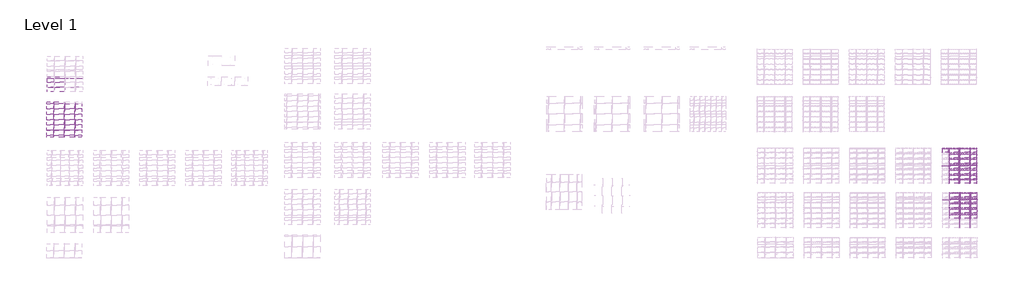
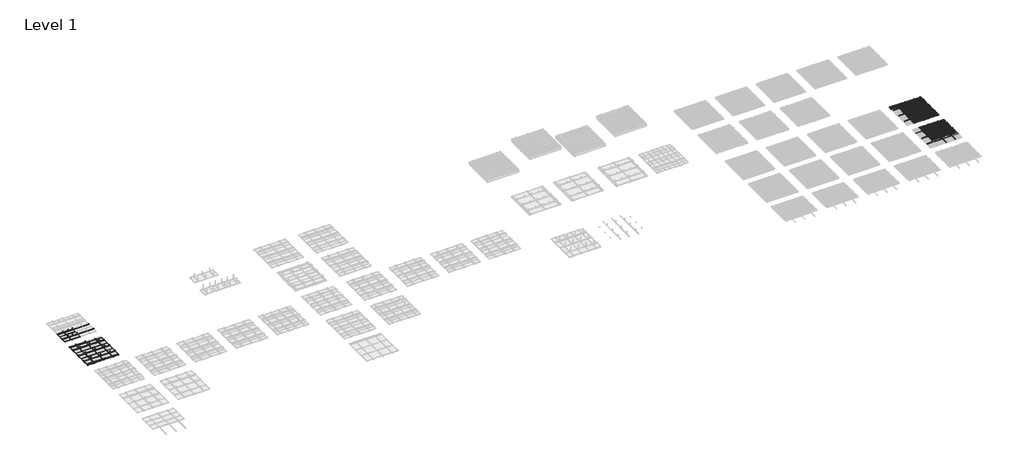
# One storey, part 15 of 32: 136 proxies.
"""IFC4 building model written with IfcOpenShell, lengths in millimetres."""

from ifc_helpers import new_model, si_unit, origin, place, context, project, spatial, transform, mapped, element, save
from components import generic_models_7976c679, generic_models_257fdc35, generic_models_9e23e978, generic_models_f96a42b3, generic_models_b01e0852, generic_models_931bb0da, generic_models_4f62446b, generic_models_777941b1, generic_models_a2e92584, generic_models_f4ce44e0, generic_models_7d2a2b44, generic_models_e4501f19, generic_models_6ed68c57, generic_models_748fdbd1, generic_models_ed86a27e, generic_models_493e9e8c, generic_models_892cdaf6, generic_models_22f2553a, generic_models_c5b66b1f, generic_models_3ca765b0, generic_models_f1efeb4e, generic_models_b4a88b9d, generic_models_f6474ad0, generic_models_9e18e937, generic_models_28f6a95c, generic_models_9ccf16c1, generic_models_38625c8c, generic_models_8a6f20a3

model = new_model("IFC4")

# Units and contexts
model_context = context("Model", 3, world=origin())
ifc_project = project(units=[si_unit("LENGTHUNIT", "METRE", prefix="MILLI")], contexts=[model_context])

# Site, building, storey
site = spatial("IfcSite", under=ifc_project)
building = spatial("IfcBuilding", under=site)
storey = spatial("IfcBuildingStorey", under=building, Name="Level 1", Elevation=0.0)

# Proxies
placement = place(None, origin())
generic_models_shape = generic_models_7976c679(model_context)
element("IfcBuildingElementProxy", 1, Name="durlum_S4_RHOMBOS : durlum_S4_RHOMBOS", ObjectType="durlum_S4_RHOMBOS : durlum_S4_RHOMBOS", at=placement, inside=storey, context=model_context, shape_type="MappedRepresentation", body=[
    mapped(generic_models_shape, transform((-44297.4152168, 3118.9203868, 0.0), x_axis=(1.0, 0.0, 0.0), y_axis=(0.0, 1.0, 0.0), z_axis=(0.0, 0.0, 1.0))),
])
generic_models_2_shape = generic_models_257fdc35(model_context)
element("IfcBuildingElementProxy", 2, Name="durlum_S4_panel : durlum_S4_panel", ObjectType="durlum_S4_panel : durlum_S4_panel", at=placement, inside=storey, context=model_context, shape_type="MappedRepresentation", body=[
    mapped(generic_models_2_shape, transform((-44897.4152168, 2218.9203868, 3700.0), x_axis=(1.0, 0.0, 0.0), y_axis=(0.0, 1.0, 0.0), z_axis=(0.0, 0.0, 1.0))),
])
element("IfcBuildingElementProxy", 3, Name="durlum_S4_panel : durlum_S4_panel", ObjectType="durlum_S4_panel : durlum_S4_panel", at=placement, inside=storey, context=model_context, shape_type="MappedRepresentation", body=[
    mapped(generic_models_2_shape, transform((-43697.4152168, 2218.9203868, 3700.0), x_axis=(1.0, 0.0, 0.0), y_axis=(0.0, 1.0, 0.0), z_axis=(0.0, 0.0, 1.0))),
])
element("IfcBuildingElementProxy", 4, Name="durlum_S4_panel : durlum_S4_panel", ObjectType="durlum_S4_panel : durlum_S4_panel", at=placement, inside=storey, context=model_context, shape_type="MappedRepresentation", body=[
    mapped(generic_models_2_shape, transform((-44897.4152168, 2818.9203868, 3700.0), x_axis=(1.0, 0.0, 0.0), y_axis=(0.0, 1.0, 0.0), z_axis=(0.0, 0.0, 1.0))),
])
element("IfcBuildingElementProxy", 5, Name="durlum_S4_panel : durlum_S4_panel", ObjectType="durlum_S4_panel : durlum_S4_panel", at=placement, inside=storey, context=model_context, shape_type="MappedRepresentation", body=[
    mapped(generic_models_2_shape, transform((-43697.4152168, 2818.9203868, 3700.0), x_axis=(1.0, 0.0, 0.0), y_axis=(0.0, 1.0, 0.0), z_axis=(0.0, 0.0, 1.0))),
])
element("IfcBuildingElementProxy", 6, Name="durlum_S4_panel : durlum_S4_panel", ObjectType="durlum_S4_panel : durlum_S4_panel", at=placement, inside=storey, context=model_context, shape_type="MappedRepresentation", body=[
    mapped(generic_models_2_shape, transform((-44897.4152168, 3418.9203868, 3700.0), x_axis=(1.0, 0.0, 0.0), y_axis=(0.0, 1.0, 0.0), z_axis=(0.0, 0.0, 1.0))),
])
element("IfcBuildingElementProxy", 7, Name="durlum_S4_panel : durlum_S4_panel", ObjectType="durlum_S4_panel : durlum_S4_panel", at=placement, inside=storey, context=model_context, shape_type="MappedRepresentation", body=[
    mapped(generic_models_2_shape, transform((-43697.4152168, 3418.9203868, 3700.0), x_axis=(1.0, 0.0, 0.0), y_axis=(0.0, 1.0, 0.0), z_axis=(0.0, 0.0, 1.0))),
])
element("IfcBuildingElementProxy", 8, Name="durlum_S4_panel : durlum_S4_panel", ObjectType="durlum_S4_panel : durlum_S4_panel", at=placement, inside=storey, context=model_context, shape_type="MappedRepresentation", body=[
    mapped(generic_models_2_shape, transform((-44897.4152168, 4018.9203868, 3700.0), x_axis=(1.0, 0.0, 0.0), y_axis=(0.0, 1.0, 0.0), z_axis=(0.0, 0.0, 1.0))),
])
element("IfcBuildingElementProxy", 9, Name="durlum_S4_panel : durlum_S4_panel", ObjectType="durlum_S4_panel : durlum_S4_panel", at=placement, inside=storey, context=model_context, shape_type="MappedRepresentation", body=[
    mapped(generic_models_2_shape, transform((-43697.4152168, 4018.9203868, 3700.0), x_axis=(1.0, 0.0, 0.0), y_axis=(0.0, 1.0, 0.0), z_axis=(0.0, 0.0, 1.0))),
])
element("IfcBuildingElementProxy", 10, Name="durlum_S4_panel : durlum_S4_panel", ObjectType="durlum_S4_panel : durlum_S4_panel", at=placement, inside=storey, context=model_context, shape_type="MappedRepresentation", body=[
    mapped(generic_models_2_shape, transform((-44897.4152168, 1618.9203868, 3700.0), x_axis=(1.0, 0.0, 0.0), y_axis=(0.0, 1.0, 0.0), z_axis=(0.0, 0.0, 1.0))),
])
element("IfcBuildingElementProxy", 11, Name="durlum_S4_panel : durlum_S4_panel", ObjectType="durlum_S4_panel : durlum_S4_panel", at=placement, inside=storey, context=model_context, shape_type="MappedRepresentation", body=[
    mapped(generic_models_2_shape, transform((-43697.4152168, 1618.9203868, 3700.0), x_axis=(1.0, 0.0, 0.0), y_axis=(0.0, 1.0, 0.0), z_axis=(0.0, 0.0, 1.0))),
])
element("IfcBuildingElementProxy", 12, Name="durlum_S4_panel : durlum_S4_panel", ObjectType="durlum_S4_panel : durlum_S4_panel", at=placement, inside=storey, context=model_context, shape_type="MappedRepresentation", body=[
    mapped(generic_models_2_shape, transform((-44897.4152168, 4618.9203868, 3700.0), x_axis=(1.0, 0.0, 0.0), y_axis=(0.0, 1.0, 0.0), z_axis=(0.0, 0.0, 1.0))),
])
element("IfcBuildingElementProxy", 13, Name="durlum_S4_panel : durlum_S4_panel", ObjectType="durlum_S4_panel : durlum_S4_panel", at=placement, inside=storey, context=model_context, shape_type="MappedRepresentation", body=[
    mapped(generic_models_2_shape, transform((-43697.4152168, 4618.9203868, 3700.0), x_axis=(1.0, 0.0, 0.0), y_axis=(0.0, 1.0, 0.0), z_axis=(0.0, 0.0, 1.0))),
])
generic_models_3_shape = generic_models_9e23e978(model_context)
element("IfcBuildingElementProxy", 14, Name="durlum_S4_panel : durlum_S4_panel_wall_length_cut", ObjectType="durlum_S4_panel : durlum_S4_panel_wall_length_cut", at=placement, inside=storey, context=model_context, shape_type="MappedRepresentation", body=[
    mapped(generic_models_3_shape, transform((-45897.4152168, 2218.9203868, 3700.0), x_axis=(1.0, 0.0, 0.0), y_axis=(0.0, 1.0, 0.0), z_axis=(0.0, 0.0, 1.0))),
])
element("IfcBuildingElementProxy", 15, Name="durlum_S4_panel : durlum_S4_panel_wall_length_cut", ObjectType="durlum_S4_panel : durlum_S4_panel_wall_length_cut", at=placement, inside=storey, context=model_context, shape_type="MappedRepresentation", body=[
    mapped(generic_models_3_shape, transform((-42697.4152168, 2218.9203868, 3700.0), x_axis=(1.0, 0.0, 0.0), y_axis=(0.0, 1.0, 0.0), z_axis=(0.0, 0.0, 1.0))),
])
element("IfcBuildingElementProxy", 16, Name="durlum_S4_panel : durlum_S4_panel_wall_length_cut", ObjectType="durlum_S4_panel : durlum_S4_panel_wall_length_cut", at=placement, inside=storey, context=model_context, shape_type="MappedRepresentation", body=[
    mapped(generic_models_3_shape, transform((-45897.4152168, 2818.9203868, 3700.0), x_axis=(1.0, 0.0, 0.0), y_axis=(0.0, 1.0, 0.0), z_axis=(0.0, 0.0, 1.0))),
])
element("IfcBuildingElementProxy", 17, Name="durlum_S4_panel : durlum_S4_panel_wall_length_cut", ObjectType="durlum_S4_panel : durlum_S4_panel_wall_length_cut", at=placement, inside=storey, context=model_context, shape_type="MappedRepresentation", body=[
    mapped(generic_models_3_shape, transform((-42697.4152168, 2818.9203868, 3700.0), x_axis=(1.0, 0.0, 0.0), y_axis=(0.0, 1.0, 0.0), z_axis=(0.0, 0.0, 1.0))),
])
element("IfcBuildingElementProxy", 18, Name="durlum_S4_panel : durlum_S4_panel_wall_length_cut", ObjectType="durlum_S4_panel : durlum_S4_panel_wall_length_cut", at=placement, inside=storey, context=model_context, shape_type="MappedRepresentation", body=[
    mapped(generic_models_3_shape, transform((-45897.4152168, 3418.9203868, 3700.0), x_axis=(1.0, 0.0, 0.0), y_axis=(0.0, 1.0, 0.0), z_axis=(0.0, 0.0, 1.0))),
])
element("IfcBuildingElementProxy", 19, Name="durlum_S4_panel : durlum_S4_panel_wall_length_cut", ObjectType="durlum_S4_panel : durlum_S4_panel_wall_length_cut", at=placement, inside=storey, context=model_context, shape_type="MappedRepresentation", body=[
    mapped(generic_models_3_shape, transform((-42697.4152168, 3418.9203868, 3700.0), x_axis=(1.0, 0.0, 0.0), y_axis=(0.0, 1.0, 0.0), z_axis=(0.0, 0.0, 1.0))),
])
element("IfcBuildingElementProxy", 20, Name="durlum_S4_panel : durlum_S4_panel_wall_length_cut", ObjectType="durlum_S4_panel : durlum_S4_panel_wall_length_cut", at=placement, inside=storey, context=model_context, shape_type="MappedRepresentation", body=[
    mapped(generic_models_3_shape, transform((-45897.4152168, 4018.9203868, 3700.0), x_axis=(1.0, 0.0, 0.0), y_axis=(0.0, 1.0, 0.0), z_axis=(0.0, 0.0, 1.0))),
])
element("IfcBuildingElementProxy", 21, Name="durlum_S4_panel : durlum_S4_panel_wall_length_cut", ObjectType="durlum_S4_panel : durlum_S4_panel_wall_length_cut", at=placement, inside=storey, context=model_context, shape_type="MappedRepresentation", body=[
    mapped(generic_models_3_shape, transform((-42697.4152168, 4018.9203868, 3700.0), x_axis=(1.0, 0.0, 0.0), y_axis=(0.0, 1.0, 0.0), z_axis=(0.0, 0.0, 1.0))),
])
element("IfcBuildingElementProxy", 22, Name="durlum_S4_panel : durlum_S4_panel_wall_length_cut", ObjectType="durlum_S4_panel : durlum_S4_panel_wall_length_cut", at=placement, inside=storey, context=model_context, shape_type="MappedRepresentation", body=[
    mapped(generic_models_3_shape, transform((-45897.4152168, 1618.9203868, 3700.0), x_axis=(1.0, 0.0, 0.0), y_axis=(0.0, 1.0, 0.0), z_axis=(0.0, 0.0, 1.0))),
])
element("IfcBuildingElementProxy", 23, Name="durlum_S4_panel : durlum_S4_panel_wall_length_cut", ObjectType="durlum_S4_panel : durlum_S4_panel_wall_length_cut", at=placement, inside=storey, context=model_context, shape_type="MappedRepresentation", body=[
    mapped(generic_models_3_shape, transform((-42697.4152168, 1618.9203868, 3700.0), x_axis=(1.0, 0.0, 0.0), y_axis=(0.0, 1.0, 0.0), z_axis=(0.0, 0.0, 1.0))),
])
element("IfcBuildingElementProxy", 24, Name="durlum_S4_panel : durlum_S4_panel_wall_length_cut", ObjectType="durlum_S4_panel : durlum_S4_panel_wall_length_cut", at=placement, inside=storey, context=model_context, shape_type="MappedRepresentation", body=[
    mapped(generic_models_3_shape, transform((-42697.4152168, 4618.9203868, 3700.0), x_axis=(1.0, 0.0, 0.0), y_axis=(0.0, 1.0, 0.0), z_axis=(0.0, 0.0, 1.0))),
])
element("IfcBuildingElementProxy", 25, Name="durlum_S4_panel : durlum_S4_panel_wall_length_cut", ObjectType="durlum_S4_panel : durlum_S4_panel_wall_length_cut", at=placement, inside=storey, context=model_context, shape_type="MappedRepresentation", body=[
    mapped(generic_models_3_shape, transform((-45897.4152168, 4618.9203868, 3700.0), x_axis=(1.0, 0.0, 0.0), y_axis=(0.0, 1.0, 0.0), z_axis=(0.0, 0.0, 1.0))),
])
generic_models_4_shape = generic_models_f96a42b3(model_context)
element("IfcBuildingElementProxy", 26, Name="durlum_S4_panel : durlum_S4_panel_wall_width_cut", ObjectType="durlum_S4_panel : durlum_S4_panel_wall_width_cut", at=placement, inside=storey, context=model_context, shape_type="MappedRepresentation", body=[
    mapped(generic_models_4_shape, transform((-43697.4152168, 1218.9203868, 3700.0), x_axis=(1.0, 0.0, 0.0), y_axis=(0.0, 1.0, 0.0), z_axis=(0.0, 0.0, 1.0))),
])
element("IfcBuildingElementProxy", 27, Name="durlum_S4_panel : durlum_S4_panel_wall_width_cut", ObjectType="durlum_S4_panel : durlum_S4_panel_wall_width_cut", at=placement, inside=storey, context=model_context, shape_type="MappedRepresentation", body=[
    mapped(generic_models_4_shape, transform((-44897.4152168, 1218.9203868, 3700.0), x_axis=(1.0, 0.0, 0.0), y_axis=(0.0, 1.0, 0.0), z_axis=(0.0, 0.0, 1.0))),
])
element("IfcBuildingElementProxy", 28, Name="durlum_S4_panel : durlum_S4_panel_wall_width_cut", ObjectType="durlum_S4_panel : durlum_S4_panel_wall_width_cut", at=placement, inside=storey, context=model_context, shape_type="MappedRepresentation", body=[
    mapped(generic_models_4_shape, transform((-44897.4152168, 5018.9203868, 3700.0), x_axis=(1.0, 0.0, 0.0), y_axis=(0.0, 1.0, 0.0), z_axis=(0.0, 0.0, 1.0))),
])
generic_models_5_shape = generic_models_b01e0852(model_context)
element("IfcBuildingElementProxy", 29, Name="durlum_S4_panel : durlum_S4_panel_wall_corner", ObjectType="durlum_S4_panel : durlum_S4_panel_wall_corner", at=placement, inside=storey, context=model_context, shape_type="MappedRepresentation", body=[
    mapped(generic_models_5_shape, transform((-45897.4152168, 1218.9203868, 3700.0), x_axis=(1.0, 0.0, 0.0), y_axis=(0.0, 1.0, 0.0), z_axis=(0.0, 0.0, 1.0))),
])
element("IfcBuildingElementProxy", 30, Name="durlum_S4_panel : durlum_S4_panel_wall_corner", ObjectType="durlum_S4_panel : durlum_S4_panel_wall_corner", at=placement, inside=storey, context=model_context, shape_type="MappedRepresentation", body=[
    mapped(generic_models_5_shape, transform((-42697.4152168, 1218.9203868, 3700.0), x_axis=(1.0, 0.0, 0.0), y_axis=(0.0, 1.0, 0.0), z_axis=(0.0, 0.0, 1.0))),
])
element("IfcBuildingElementProxy", 31, Name="durlum_S4_panel : durlum_S4_panel_wall_corner", ObjectType="durlum_S4_panel : durlum_S4_panel_wall_corner", at=placement, inside=storey, context=model_context, shape_type="MappedRepresentation", body=[
    mapped(generic_models_5_shape, transform((-45897.4152168, 5018.9203868, 3700.0), x_axis=(1.0, 0.0, 0.0), y_axis=(0.0, 1.0, 0.0), z_axis=(0.0, 0.0, 1.0))),
])
generic_models_6_shape = generic_models_931bb0da(model_context)
element("IfcBuildingElementProxy", 32, Name="durlum_S1_RHOMBOS_panel : durlum_S1_RHOMBOS_panel", ObjectType="durlum_S1_RHOMBOS_panel : durlum_S1_RHOMBOS_panel", at=placement, inside=storey, context=model_context, shape_type="MappedRepresentation", body=[
    mapped(generic_models_6_shape, transform((-44821.0989201, 7649.4221747, 3700.0), x_axis=(1.0, 0.0, 0.0), y_axis=(0.0, 1.0, 0.0), z_axis=(0.0, 0.0, 1.0))),
])
element("IfcBuildingElementProxy", 33, Name="durlum_S1_RHOMBOS_panel : durlum_S1_RHOMBOS_panel", ObjectType="durlum_S1_RHOMBOS_panel : durlum_S1_RHOMBOS_panel", at=placement, inside=storey, context=model_context, shape_type="MappedRepresentation", body=[
    mapped(generic_models_6_shape, transform((-44821.0989201, 7049.4221747, 3700.0), x_axis=(1.0, 0.0, 0.0), y_axis=(0.0, 1.0, 0.0), z_axis=(0.0, 0.0, 1.0))),
])
generic_models_7_shape = generic_models_4f62446b(model_context)
element("IfcBuildingElementProxy", 34, Name="durlum_S1_RHOMBOS_panel : durlum_S1_RHOMBOS_panel_wall_length_cut", ObjectType="durlum_S1_RHOMBOS_panel : durlum_S1_RHOMBOS_panel_wall_length_cut", at=placement, inside=storey, context=model_context, shape_type="MappedRepresentation", body=[
    mapped(generic_models_7_shape, transform((-45821.0989201, 7649.4221747, 3700.0), x_axis=(1.0, 0.0, 0.0), y_axis=(0.0, 1.0, 0.0), z_axis=(0.0, 0.0, 1.0))),
])
element("IfcBuildingElementProxy", 35, Name="durlum_S1_RHOMBOS_panel : durlum_S1_RHOMBOS_panel_wall_length_cut", ObjectType="durlum_S1_RHOMBOS_panel : durlum_S1_RHOMBOS_panel_wall_length_cut", at=placement, inside=storey, context=model_context, shape_type="MappedRepresentation", body=[
    mapped(generic_models_7_shape, transform((-45821.0989201, 7049.4221747, 3700.0), x_axis=(1.0, 0.0, 0.0), y_axis=(0.0, 1.0, 0.0), z_axis=(0.0, 0.0, 1.0))),
])
generic_models_8_shape = generic_models_777941b1(model_context)
element("IfcBuildingElementProxy", 36, Name="durlum_S1_RHOMBOS_panel : durlum_S1_RHOMBOS_panel_wall_width_cut", ObjectType="durlum_S1_RHOMBOS_panel : durlum_S1_RHOMBOS_panel_wall_width_cut", at=placement, inside=storey, context=model_context, shape_type="MappedRepresentation", body=[
    mapped(generic_models_8_shape, transform((-44821.0989201, 6499.4221747, 3700.0), x_axis=(1.0, 0.0, 0.0), y_axis=(0.0, 1.0, 0.0), z_axis=(0.0, 0.0, 1.0))),
])
generic_models_9_shape = generic_models_a2e92584(model_context)
element("IfcBuildingElementProxy", 37, Name="durlum_S1_RHOMBOS_panel : durlum_S1_RHOMBOS_panel_wall_corner", ObjectType="durlum_S1_RHOMBOS_panel : durlum_S1_RHOMBOS_panel_wall_corner", at=placement, inside=storey, context=model_context, shape_type="MappedRepresentation", body=[
    mapped(generic_models_9_shape, transform((-45821.0989201, 6499.4221747, 3700.0), x_axis=(1.0, 0.0, 0.0), y_axis=(0.0, 1.0, 0.0), z_axis=(0.0, 0.0, 1.0))),
])
generic_models_10_shape = generic_models_f4ce44e0(model_context)
element("IfcBuildingElementProxy", 38, Name="durlum_U94 : durlum_U94", ObjectType="durlum_U94 : durlum_U94", at=placement, inside=storey, context=model_context, shape_type="MappedRepresentation", body=[
    mapped(generic_models_10_shape, transform((56774.5159714, -2089.6204758, 3724.0), x_axis=(0.0, 1.0, 0.0), y_axis=(-1.0, 0.0, 0.0), z_axis=(0.0, 0.0, 1.0))),
])
element("IfcBuildingElementProxy", 39, Name="durlum_U94 : durlum_U94", ObjectType="durlum_U94 : durlum_U94", at=placement, inside=storey, context=model_context, shape_type="MappedRepresentation", body=[
    mapped(generic_models_10_shape, transform((57974.5159714, -2089.6204758, 3724.0), x_axis=(0.0, 1.0, 0.0), y_axis=(-1.0, 0.0, 0.0), z_axis=(0.0, 0.0, 1.0))),
])
element("IfcBuildingElementProxy", 40, Name="durlum_U94 : durlum_U94", ObjectType="durlum_U94 : durlum_U94", at=placement, inside=storey, context=model_context, shape_type="MappedRepresentation", body=[
    mapped(generic_models_10_shape, transform((56812.2666746, -7112.09776, 3724.0), x_axis=(0.0, 1.0, 0.0), y_axis=(-1.0, 0.0, 0.0), z_axis=(0.0, 0.0, 1.0))),
])
element("IfcBuildingElementProxy", 41, Name="durlum_U94 : durlum_U94", ObjectType="durlum_U94 : durlum_U94", at=placement, inside=storey, context=model_context, shape_type="MappedRepresentation", body=[
    mapped(generic_models_10_shape, transform((58012.2666746, -7112.09776, 3724.0), x_axis=(0.0, 1.0, 0.0), y_axis=(-1.0, 0.0, 0.0), z_axis=(0.0, 0.0, 1.0))),
])
generic_models_11_shape = generic_models_7d2a2b44(model_context)
element("IfcBuildingElementProxy", 42, Name="durlum_GEO_panel : durlum_GEO_4", ObjectType="durlum_GEO_panel : durlum_GEO_4", at=placement, inside=storey, context=model_context, shape_type="MappedRepresentation", body=[
    mapped(generic_models_11_shape, transform((56174.5159714, -2689.6204758, 3700.0), x_axis=(1.0, 0.0, 0.0), y_axis=(0.0, 1.0, 0.0), z_axis=(0.0, 0.0, 1.0))),
])
element("IfcBuildingElementProxy", 43, Name="durlum_GEO_panel : durlum_GEO_4", ObjectType="durlum_GEO_panel : durlum_GEO_4", at=placement, inside=storey, context=model_context, shape_type="MappedRepresentation", body=[
    mapped(generic_models_11_shape, transform((57374.5159714, -2689.6204758, 3700.0), x_axis=(1.0, 0.0, 0.0), y_axis=(0.0, 1.0, 0.0), z_axis=(0.0, 0.0, 1.0))),
])
element("IfcBuildingElementProxy", 44, Name="durlum_GEO_panel : durlum_GEO_4", ObjectType="durlum_GEO_panel : durlum_GEO_4", at=placement, inside=storey, context=model_context, shape_type="MappedRepresentation", body=[
    mapped(generic_models_11_shape, transform((56174.5159714, -2089.6204758, 3700.0), x_axis=(1.0, 0.0, 0.0), y_axis=(0.0, 1.0, 0.0), z_axis=(0.0, 0.0, 1.0))),
])
element("IfcBuildingElementProxy", 45, Name="durlum_GEO_panel : durlum_GEO_4", ObjectType="durlum_GEO_panel : durlum_GEO_4", at=placement, inside=storey, context=model_context, shape_type="MappedRepresentation", body=[
    mapped(generic_models_11_shape, transform((57374.5159714, -2089.6204758, 3700.0), x_axis=(1.0, 0.0, 0.0), y_axis=(0.0, 1.0, 0.0), z_axis=(0.0, 0.0, 1.0))),
])
element("IfcBuildingElementProxy", 46, Name="durlum_GEO_panel : durlum_GEO_4", ObjectType="durlum_GEO_panel : durlum_GEO_4", at=placement, inside=storey, context=model_context, shape_type="MappedRepresentation", body=[
    mapped(generic_models_11_shape, transform((56174.5159714, -1489.6204758, 3700.0), x_axis=(1.0, 0.0, 0.0), y_axis=(0.0, 1.0, 0.0), z_axis=(0.0, 0.0, 1.0))),
])
element("IfcBuildingElementProxy", 47, Name="durlum_GEO_panel : durlum_GEO_4", ObjectType="durlum_GEO_panel : durlum_GEO_4", at=placement, inside=storey, context=model_context, shape_type="MappedRepresentation", body=[
    mapped(generic_models_11_shape, transform((57374.5159714, -1489.6204758, 3700.0), x_axis=(1.0, 0.0, 0.0), y_axis=(0.0, 1.0, 0.0), z_axis=(0.0, 0.0, 1.0))),
])
element("IfcBuildingElementProxy", 48, Name="durlum_GEO_panel : durlum_GEO_4", ObjectType="durlum_GEO_panel : durlum_GEO_4", at=placement, inside=storey, context=model_context, shape_type="MappedRepresentation", body=[
    mapped(generic_models_11_shape, transform((56174.5159714, -889.6204758, 3700.0), x_axis=(1.0, 0.0, 0.0), y_axis=(0.0, 1.0, 0.0), z_axis=(0.0, 0.0, 1.0))),
])
element("IfcBuildingElementProxy", 49, Name="durlum_GEO_panel : durlum_GEO_4", ObjectType="durlum_GEO_panel : durlum_GEO_4", at=placement, inside=storey, context=model_context, shape_type="MappedRepresentation", body=[
    mapped(generic_models_11_shape, transform((57374.5159714, -889.6204758, 3700.0), x_axis=(1.0, 0.0, 0.0), y_axis=(0.0, 1.0, 0.0), z_axis=(0.0, 0.0, 1.0))),
])
element("IfcBuildingElementProxy", 50, Name="durlum_GEO_panel : durlum_GEO_4", ObjectType="durlum_GEO_panel : durlum_GEO_4", at=placement, inside=storey, context=model_context, shape_type="MappedRepresentation", body=[
    mapped(generic_models_11_shape, transform((56174.5159714, -3289.6204758, 3700.0), x_axis=(1.0, 0.0, 0.0), y_axis=(0.0, 1.0, 0.0), z_axis=(0.0, 0.0, 1.0))),
])
element("IfcBuildingElementProxy", 51, Name="durlum_GEO_panel : durlum_GEO_4", ObjectType="durlum_GEO_panel : durlum_GEO_4", at=placement, inside=storey, context=model_context, shape_type="MappedRepresentation", body=[
    mapped(generic_models_11_shape, transform((57374.5159714, -3289.6204758, 3700.0), x_axis=(1.0, 0.0, 0.0), y_axis=(0.0, 1.0, 0.0), z_axis=(0.0, 0.0, 1.0))),
])
generic_models_12_shape = generic_models_e4501f19(model_context)
element("IfcBuildingElementProxy", 52, Name="durlum_GEO_panel : durlum_GEO_4_width_cut", ObjectType="durlum_GEO_panel : durlum_GEO_4_width_cut", at=placement, inside=storey, context=model_context, shape_type="MappedRepresentation", body=[
    mapped(generic_models_12_shape, transform((56174.5159714, -3839.6204758, 3700.0), x_axis=(1.0, 0.0, 0.0), y_axis=(0.0, 1.0, 0.0), z_axis=(0.0, 0.0, 1.0))),
])
element("IfcBuildingElementProxy", 53, Name="durlum_GEO_panel : durlum_GEO_4_width_cut", ObjectType="durlum_GEO_panel : durlum_GEO_4_width_cut", at=placement, inside=storey, context=model_context, shape_type="MappedRepresentation", body=[
    mapped(generic_models_12_shape, transform((56174.5159714, -339.6204758, 3700.0), x_axis=(1.0, 0.0, 0.0), y_axis=(0.0, 1.0, 0.0), z_axis=(0.0, 0.0, 1.0))),
])
element("IfcBuildingElementProxy", 54, Name="durlum_GEO_panel : durlum_GEO_4_width_cut", ObjectType="durlum_GEO_panel : durlum_GEO_4_width_cut", at=placement, inside=storey, context=model_context, shape_type="MappedRepresentation", body=[
    mapped(generic_models_12_shape, transform((57374.5159714, -3839.6204758, 3700.0), x_axis=(1.0, 0.0, 0.0), y_axis=(0.0, 1.0, 0.0), z_axis=(0.0, 0.0, 1.0))),
])
element("IfcBuildingElementProxy", 55, Name="durlum_GEO_panel : durlum_GEO_4_width_cut", ObjectType="durlum_GEO_panel : durlum_GEO_4_width_cut", at=placement, inside=storey, context=model_context, shape_type="MappedRepresentation", body=[
    mapped(generic_models_12_shape, transform((57374.5159714, -339.6204758, 3700.0), x_axis=(1.0, 0.0, 0.0), y_axis=(0.0, 1.0, 0.0), z_axis=(0.0, 0.0, 1.0))),
])
generic_models_13_shape = generic_models_6ed68c57(model_context)
element("IfcBuildingElementProxy", 56, Name="durlum_GEO_panel : durlum_GEO_9", ObjectType="durlum_GEO_panel : durlum_GEO_9", at=placement, inside=storey, context=model_context, shape_type="MappedRepresentation", body=[
    mapped(generic_models_13_shape, transform((56212.2666746, -7712.09776, 3700.0), x_axis=(1.0, 0.0, 0.0), y_axis=(0.0, 1.0, 0.0), z_axis=(0.0, 0.0, 1.0))),
])
element("IfcBuildingElementProxy", 57, Name="durlum_GEO_panel : durlum_GEO_9", ObjectType="durlum_GEO_panel : durlum_GEO_9", at=placement, inside=storey, context=model_context, shape_type="MappedRepresentation", body=[
    mapped(generic_models_13_shape, transform((57412.2666746, -7712.09776, 3700.0), x_axis=(1.0, 0.0, 0.0), y_axis=(0.0, 1.0, 0.0), z_axis=(0.0, 0.0, 1.0))),
])
element("IfcBuildingElementProxy", 58, Name="durlum_GEO_panel : durlum_GEO_9", ObjectType="durlum_GEO_panel : durlum_GEO_9", at=placement, inside=storey, context=model_context, shape_type="MappedRepresentation", body=[
    mapped(generic_models_13_shape, transform((56212.2666746, -7112.09776, 3700.0), x_axis=(1.0, 0.0, 0.0), y_axis=(0.0, 1.0, 0.0), z_axis=(0.0, 0.0, 1.0))),
])
element("IfcBuildingElementProxy", 59, Name="durlum_GEO_panel : durlum_GEO_9", ObjectType="durlum_GEO_panel : durlum_GEO_9", at=placement, inside=storey, context=model_context, shape_type="MappedRepresentation", body=[
    mapped(generic_models_13_shape, transform((57412.2666746, -7112.09776, 3700.0), x_axis=(1.0, 0.0, 0.0), y_axis=(0.0, 1.0, 0.0), z_axis=(0.0, 0.0, 1.0))),
])
element("IfcBuildingElementProxy", 60, Name="durlum_GEO_panel : durlum_GEO_9", ObjectType="durlum_GEO_panel : durlum_GEO_9", at=placement, inside=storey, context=model_context, shape_type="MappedRepresentation", body=[
    mapped(generic_models_13_shape, transform((56212.2666746, -6512.09776, 3700.0), x_axis=(1.0, 0.0, 0.0), y_axis=(0.0, 1.0, 0.0), z_axis=(0.0, 0.0, 1.0))),
])
element("IfcBuildingElementProxy", 61, Name="durlum_GEO_panel : durlum_GEO_9", ObjectType="durlum_GEO_panel : durlum_GEO_9", at=placement, inside=storey, context=model_context, shape_type="MappedRepresentation", body=[
    mapped(generic_models_13_shape, transform((57412.2666746, -6512.09776, 3700.0), x_axis=(1.0, 0.0, 0.0), y_axis=(0.0, 1.0, 0.0), z_axis=(0.0, 0.0, 1.0))),
])
element("IfcBuildingElementProxy", 62, Name="durlum_GEO_panel : durlum_GEO_9", ObjectType="durlum_GEO_panel : durlum_GEO_9", at=placement, inside=storey, context=model_context, shape_type="MappedRepresentation", body=[
    mapped(generic_models_13_shape, transform((56212.2666746, -5912.09776, 3700.0), x_axis=(1.0, 0.0, 0.0), y_axis=(0.0, 1.0, 0.0), z_axis=(0.0, 0.0, 1.0))),
])
element("IfcBuildingElementProxy", 63, Name="durlum_GEO_panel : durlum_GEO_9", ObjectType="durlum_GEO_panel : durlum_GEO_9", at=placement, inside=storey, context=model_context, shape_type="MappedRepresentation", body=[
    mapped(generic_models_13_shape, transform((57412.2666746, -5912.09776, 3700.0), x_axis=(1.0, 0.0, 0.0), y_axis=(0.0, 1.0, 0.0), z_axis=(0.0, 0.0, 1.0))),
])
generic_models_14_shape = generic_models_748fdbd1(model_context)
element("IfcBuildingElementProxy", 64, Name="durlum_GEO_panel : durlum_GEO_9_width_cut", ObjectType="durlum_GEO_panel : durlum_GEO_9_width_cut", at=placement, inside=storey, context=model_context, shape_type="MappedRepresentation", body=[
    mapped(generic_models_14_shape, transform((56212.2666746, -5362.09776, 3700.0), x_axis=(1.0, 0.0, 0.0), y_axis=(0.0, 1.0, 0.0), z_axis=(0.0, 0.0, 1.0))),
])
element("IfcBuildingElementProxy", 65, Name="durlum_GEO_panel : durlum_GEO_9_width_cut", ObjectType="durlum_GEO_panel : durlum_GEO_9_width_cut", at=placement, inside=storey, context=model_context, shape_type="MappedRepresentation", body=[
    mapped(generic_models_14_shape, transform((57412.2666746, -5362.09776, 3700.0), x_axis=(1.0, 0.0, 0.0), y_axis=(0.0, 1.0, 0.0), z_axis=(0.0, 0.0, 1.0))),
])
generic_models_15_shape = generic_models_ed86a27e(model_context)
element("IfcBuildingElementProxy", 66, Name="durlum_GEO_4 : durlum_GEO_4", ObjectType="durlum_GEO_4 : durlum_GEO_4", at=placement, inside=storey, context=model_context, shape_type="MappedRepresentation", body=[
    mapped(generic_models_15_shape, transform((56774.5159714, -2089.6204758, 0.0), x_axis=(1.0, 0.0, 0.0), y_axis=(0.0, 1.0, 0.0), z_axis=(0.0, 0.0, 1.0))),
])
generic_models_16_shape = generic_models_493e9e8c(model_context)
element("IfcBuildingElementProxy", 67, Name="durlum_GEO_panel : durlum_GEO_4_length_cut", ObjectType="durlum_GEO_panel : durlum_GEO_4_length_cut", at=placement, inside=storey, context=model_context, shape_type="MappedRepresentation", body=[
    mapped(generic_models_16_shape, transform((58374.7659714, -1489.6204758, 3700.0), x_axis=(1.0, 0.0, 0.0), y_axis=(0.0, 1.0, 0.0), z_axis=(0.0, 0.0, 1.0))),
])
element("IfcBuildingElementProxy", 68, Name="durlum_GEO_panel : durlum_GEO_4_length_cut", ObjectType="durlum_GEO_panel : durlum_GEO_4_length_cut", at=placement, inside=storey, context=model_context, shape_type="MappedRepresentation", body=[
    mapped(generic_models_16_shape, transform((58374.7659714, -2089.6204758, 3700.0), x_axis=(1.0, 0.0, 0.0), y_axis=(0.0, 1.0, 0.0), z_axis=(0.0, 0.0, 1.0))),
])
element("IfcBuildingElementProxy", 69, Name="durlum_GEO_panel : durlum_GEO_4_length_cut", ObjectType="durlum_GEO_panel : durlum_GEO_4_length_cut", at=placement, inside=storey, context=model_context, shape_type="MappedRepresentation", body=[
    mapped(generic_models_16_shape, transform((58374.7659714, -2689.6204758, 3700.0), x_axis=(1.0, 0.0, 0.0), y_axis=(0.0, 1.0, 0.0), z_axis=(0.0, 0.0, 1.0))),
])
element("IfcBuildingElementProxy", 70, Name="durlum_GEO_panel : durlum_GEO_4_length_cut", ObjectType="durlum_GEO_panel : durlum_GEO_4_length_cut", at=placement, inside=storey, context=model_context, shape_type="MappedRepresentation", body=[
    mapped(generic_models_16_shape, transform((58374.7659714, -889.6204758, 3700.0), x_axis=(1.0, 0.0, 0.0), y_axis=(0.0, 1.0, 0.0), z_axis=(0.0, 0.0, 1.0))),
])
element("IfcBuildingElementProxy", 71, Name="durlum_GEO_panel : durlum_GEO_4_length_cut", ObjectType="durlum_GEO_panel : durlum_GEO_4_length_cut", at=placement, inside=storey, context=model_context, shape_type="MappedRepresentation", body=[
    mapped(generic_models_16_shape, transform((58374.7659714, -3289.6204758, 3700.0), x_axis=(1.0, 0.0, 0.0), y_axis=(0.0, 1.0, 0.0), z_axis=(0.0, 0.0, 1.0))),
])
generic_models_17_shape = generic_models_892cdaf6(model_context)
element("IfcBuildingElementProxy", 72, Name="durlum_GEO_panel : durlum_GEO_4_corner_cut", ObjectType="durlum_GEO_panel : durlum_GEO_4_corner_cut", at=placement, inside=storey, context=model_context, shape_type="MappedRepresentation", body=[
    mapped(generic_models_17_shape, transform((58374.7659714, -339.6204758, 3700.0), x_axis=(1.0, 0.0, 0.0), y_axis=(0.0, 1.0, 0.0), z_axis=(0.0, 0.0, 1.0))),
])
element("IfcBuildingElementProxy", 73, Name="durlum_GEO_panel : durlum_GEO_4_corner_cut", ObjectType="durlum_GEO_panel : durlum_GEO_4_corner_cut", at=placement, inside=storey, context=model_context, shape_type="MappedRepresentation", body=[
    mapped(generic_models_17_shape, transform((55174.2659714, -339.6204758, 3700.0), x_axis=(1.0, 0.0, 0.0), y_axis=(0.0, 1.0, 0.0), z_axis=(0.0, 0.0, 1.0))),
])
element("IfcBuildingElementProxy", 74, Name="durlum_GEO_panel : durlum_GEO_4_corner_cut", ObjectType="durlum_GEO_panel : durlum_GEO_4_corner_cut", at=placement, inside=storey, context=model_context, shape_type="MappedRepresentation", body=[
    mapped(generic_models_17_shape, transform((58374.7659714, -3839.6204758, 3700.0), x_axis=(1.0, 0.0, 0.0), y_axis=(0.0, 1.0, 0.0), z_axis=(0.0, 0.0, 1.0))),
])
generic_models_18_shape = generic_models_22f2553a(model_context)
element("IfcBuildingElementProxy", 75, Name="durlum_GEO_9 : durlum_GEO_9", ObjectType="durlum_GEO_9 : durlum_GEO_9", at=placement, inside=storey, context=model_context, shape_type="MappedRepresentation", body=[
    mapped(generic_models_18_shape, transform((56812.2666746, -7112.09776, 0.0), x_axis=(1.0, 0.0, 0.0), y_axis=(0.0, 1.0, 0.0), z_axis=(0.0, 0.0, 1.0))),
])
generic_models_19_shape = generic_models_c5b66b1f(model_context)
element("IfcBuildingElementProxy", 76, Name="durlum_GEO_panel : durlum_GEO_9_length_cut", ObjectType="durlum_GEO_panel : durlum_GEO_9_length_cut", at=placement, inside=storey, context=model_context, shape_type="MappedRepresentation", body=[
    mapped(generic_models_19_shape, transform((58409.3295262, -6512.09776, 3700.0), x_axis=(1.0, 0.0, 0.0), y_axis=(0.0, 1.0, 0.0), z_axis=(0.0, 0.0, 1.0))),
])
element("IfcBuildingElementProxy", 77, Name="durlum_GEO_panel : durlum_GEO_9_length_cut", ObjectType="durlum_GEO_panel : durlum_GEO_9_length_cut", at=placement, inside=storey, context=model_context, shape_type="MappedRepresentation", body=[
    mapped(generic_models_19_shape, transform((58409.3295262, -7112.09776, 3700.0), x_axis=(1.0, 0.0, 0.0), y_axis=(0.0, 1.0, 0.0), z_axis=(0.0, 0.0, 1.0))),
])
element("IfcBuildingElementProxy", 78, Name="durlum_GEO_panel : durlum_GEO_9_length_cut", ObjectType="durlum_GEO_panel : durlum_GEO_9_length_cut", at=placement, inside=storey, context=model_context, shape_type="MappedRepresentation", body=[
    mapped(generic_models_19_shape, transform((58409.3295262, -7712.09776, 3700.0), x_axis=(1.0, 0.0, 0.0), y_axis=(0.0, 1.0, 0.0), z_axis=(0.0, 0.0, 1.0))),
])
element("IfcBuildingElementProxy", 79, Name="durlum_GEO_panel : durlum_GEO_9_length_cut", ObjectType="durlum_GEO_panel : durlum_GEO_9_length_cut", at=placement, inside=storey, context=model_context, shape_type="MappedRepresentation", body=[
    mapped(generic_models_19_shape, transform((58409.3295262, -5912.09776, 3700.0), x_axis=(1.0, 0.0, 0.0), y_axis=(0.0, 1.0, 0.0), z_axis=(0.0, 0.0, 1.0))),
])
generic_models_20_shape = generic_models_3ca765b0(model_context)
element("IfcBuildingElementProxy", 80, Name="durlum_GEO_panel : durlum_GEO_9_corner_cut", ObjectType="durlum_GEO_panel : durlum_GEO_9_corner_cut", at=placement, inside=storey, context=model_context, shape_type="MappedRepresentation", body=[
    mapped(generic_models_20_shape, transform((58409.3295262, -5362.09776, 3700.0), x_axis=(1.0, 0.0, 0.0), y_axis=(0.0, 1.0, 0.0), z_axis=(0.0, 0.0, 1.0))),
])
generic_models_21_shape = generic_models_f1efeb4e(model_context)
element("IfcBuildingElementProxy", 81, Name="durlum_U1300 : durlum_U1300", ObjectType="durlum_U1300 : durlum_U1300", at=placement, inside=storey, context=model_context, shape_type="MappedRepresentation", body=[
    mapped(generic_models_21_shape, transform((-45521.0989201, 7749.4221747, 3081.9124682), x_axis=(0.0, -1.0, 0.0), y_axis=(1.0, 0.0, 0.0), z_axis=(0.0, 0.0, 1.0))),
])
element("IfcBuildingElementProxy", 82, Name="durlum_U1300 : durlum_U1300", ObjectType="durlum_U1300 : durlum_U1300", at=placement, inside=storey, context=model_context, shape_type="MappedRepresentation", body=[
    mapped(generic_models_21_shape, transform((-44321.0989201, 7749.4221747, 3081.9124682), x_axis=(0.0, -1.0, 0.0), y_axis=(1.0, 0.0, 0.0), z_axis=(0.0, 0.0, 1.0))),
])
element("IfcBuildingElementProxy", 83, Name="durlum_U1300 : durlum_U1300", ObjectType="durlum_U1300 : durlum_U1300", at=placement, inside=storey, context=model_context, shape_type="MappedRepresentation", body=[
    mapped(generic_models_21_shape, transform((-44921.0989201, 7749.4221747, 3081.9124682), x_axis=(0.0, -1.0, 0.0), y_axis=(1.0, 0.0, 0.0), z_axis=(0.0, 0.0, 1.0))),
])
element("IfcBuildingElementProxy", 84, Name="durlum_U1300 : durlum_U1300", ObjectType="durlum_U1300 : durlum_U1300", at=placement, inside=storey, context=model_context, shape_type="MappedRepresentation", body=[
    mapped(generic_models_21_shape, transform((-45521.0989201, 6749.4221747, 3081.9124682), x_axis=(0.0, -1.0, 0.0), y_axis=(1.0, 0.0, 0.0), z_axis=(0.0, 0.0, 1.0))),
])
element("IfcBuildingElementProxy", 85, Name="durlum_U1300 : durlum_U1300", ObjectType="durlum_U1300 : durlum_U1300", at=placement, inside=storey, context=model_context, shape_type="MappedRepresentation", body=[
    mapped(generic_models_21_shape, transform((-44321.0989201, 6749.4221747, 3081.9124682), x_axis=(0.0, -1.0, 0.0), y_axis=(1.0, 0.0, 0.0), z_axis=(0.0, 0.0, 1.0))),
])
element("IfcBuildingElementProxy", 86, Name="durlum_U1300 : durlum_U1300", ObjectType="durlum_U1300 : durlum_U1300", at=placement, inside=storey, context=model_context, shape_type="MappedRepresentation", body=[
    mapped(generic_models_21_shape, transform((-44921.0989201, 6749.4221747, 3081.9124682), x_axis=(0.0, -1.0, 0.0), y_axis=(1.0, 0.0, 0.0), z_axis=(0.0, 0.0, 1.0))),
])
generic_models_22_shape = generic_models_b4a88b9d(model_context)
element("IfcBuildingElementProxy", 87, Name="durlum_U1300 : durlum_U1300", ObjectType="durlum_U1300 : durlum_U1300", at=placement, inside=storey, context=model_context, shape_type="MappedRepresentation", body=[
    mapped(generic_models_22_shape, transform((-45397.4152168, 1918.9203868, 3070.4124682), x_axis=(1.0, 0.0, 0.0), y_axis=(0.0, 1.0, 0.0), z_axis=(0.0, 0.0, 1.0))),
])
element("IfcBuildingElementProxy", 88, Name="durlum_U1300 : durlum_U1300", ObjectType="durlum_U1300 : durlum_U1300", at=placement, inside=storey, context=model_context, shape_type="MappedRepresentation", body=[
    mapped(generic_models_22_shape, transform((-42997.4152168, 1918.9203868, 3070.4124682), x_axis=(1.0, 0.0, 0.0), y_axis=(0.0, 1.0, 0.0), z_axis=(0.0, 0.0, 1.0))),
])
element("IfcBuildingElementProxy", 89, Name="durlum_U1300 : durlum_U1300", ObjectType="durlum_U1300 : durlum_U1300", at=placement, inside=storey, context=model_context, shape_type="MappedRepresentation", body=[
    mapped(generic_models_22_shape, transform((-44197.4152168, 1918.9203868, 3070.4124682), x_axis=(1.0, 0.0, 0.0), y_axis=(0.0, 1.0, 0.0), z_axis=(0.0, 0.0, 1.0))),
])
element("IfcBuildingElementProxy", 90, Name="durlum_U1300 : durlum_U1300", ObjectType="durlum_U1300 : durlum_U1300", at=placement, inside=storey, context=model_context, shape_type="MappedRepresentation", body=[
    mapped(generic_models_22_shape, transform((-45397.4152168, 4318.9203868, 3070.4124682), x_axis=(1.0, 0.0, 0.0), y_axis=(0.0, 1.0, 0.0), z_axis=(0.0, 0.0, 1.0))),
])
element("IfcBuildingElementProxy", 91, Name="durlum_U1300 : durlum_U1300", ObjectType="durlum_U1300 : durlum_U1300", at=placement, inside=storey, context=model_context, shape_type="MappedRepresentation", body=[
    mapped(generic_models_22_shape, transform((-42997.4152168, 4318.9203868, 3070.4124682), x_axis=(1.0, 0.0, 0.0), y_axis=(0.0, 1.0, 0.0), z_axis=(0.0, 0.0, 1.0))),
])
element("IfcBuildingElementProxy", 92, Name="durlum_U1300 : durlum_U1300", ObjectType="durlum_U1300 : durlum_U1300", at=placement, inside=storey, context=model_context, shape_type="MappedRepresentation", body=[
    mapped(generic_models_22_shape, transform((-44197.4152168, 4318.9203868, 3070.4124682), x_axis=(1.0, 0.0, 0.0), y_axis=(0.0, 1.0, 0.0), z_axis=(0.0, 0.0, 1.0))),
])
element("IfcBuildingElementProxy", 93, Name="durlum_U1300 : durlum_U1300", ObjectType="durlum_U1300 : durlum_U1300", at=placement, inside=storey, context=model_context, shape_type="MappedRepresentation", body=[
    mapped(generic_models_22_shape, transform((-45397.4152168, 3118.9203868, 3070.4124682), x_axis=(1.0, 0.0, 0.0), y_axis=(0.0, 1.0, 0.0), z_axis=(0.0, 0.0, 1.0))),
])
element("IfcBuildingElementProxy", 94, Name="durlum_U1300 : durlum_U1300", ObjectType="durlum_U1300 : durlum_U1300", at=placement, inside=storey, context=model_context, shape_type="MappedRepresentation", body=[
    mapped(generic_models_22_shape, transform((-42997.4152168, 3118.9203868, 3070.4124682), x_axis=(1.0, 0.0, 0.0), y_axis=(0.0, 1.0, 0.0), z_axis=(0.0, 0.0, 1.0))),
])
element("IfcBuildingElementProxy", 95, Name="durlum_U1300 : durlum_U1300", ObjectType="durlum_U1300 : durlum_U1300", at=placement, inside=storey, context=model_context, shape_type="MappedRepresentation", body=[
    mapped(generic_models_22_shape, transform((-44197.4152168, 3118.9203868, 3070.4124682), x_axis=(1.0, 0.0, 0.0), y_axis=(0.0, 1.0, 0.0), z_axis=(0.0, 0.0, 1.0))),
])
generic_models_23_shape = generic_models_f6474ad0(model_context)
element("IfcBuildingElementProxy", 96, Name="durlum_U1300 : durlum_U1300", ObjectType="durlum_U1300 : durlum_U1300", at=placement, inside=storey, context=model_context, shape_type="MappedRepresentation", body=[
    mapped(generic_models_23_shape, transform((58074.5159714, -2089.6204758, 2999.4124682), x_axis=(-1.0, 0.0, 0.0), y_axis=(0.0, -1.0, 0.0), z_axis=(0.0, 0.0, 1.0))),
])
element("IfcBuildingElementProxy", 97, Name="durlum_U1300 : durlum_U1300", ObjectType="durlum_U1300 : durlum_U1300", at=placement, inside=storey, context=model_context, shape_type="MappedRepresentation", body=[
    mapped(generic_models_23_shape, transform((56874.5159714, -2089.6204758, 2999.4124682), x_axis=(-1.0, 0.0, 0.0), y_axis=(0.0, -1.0, 0.0), z_axis=(0.0, 0.0, 1.0))),
])
element("IfcBuildingElementProxy", 98, Name="durlum_U1300 : durlum_U1300", ObjectType="durlum_U1300 : durlum_U1300", at=placement, inside=storey, context=model_context, shape_type="MappedRepresentation", body=[
    mapped(generic_models_23_shape, transform((55674.5159714, -889.6204758, 2999.4124682), x_axis=(-1.0, 0.0, 0.0), y_axis=(0.0, -1.0, 0.0), z_axis=(0.0, 0.0, 1.0))),
])
element("IfcBuildingElementProxy", 99, Name="durlum_U1300 : durlum_U1300", ObjectType="durlum_U1300 : durlum_U1300", at=placement, inside=storey, context=model_context, shape_type="MappedRepresentation", body=[
    mapped(generic_models_23_shape, transform((58074.5159714, -889.6204758, 2999.4124682), x_axis=(-1.0, 0.0, 0.0), y_axis=(0.0, -1.0, 0.0), z_axis=(0.0, 0.0, 1.0))),
])
element("IfcBuildingElementProxy", 100, Name="durlum_U1300 : durlum_U1300", ObjectType="durlum_U1300 : durlum_U1300", at=placement, inside=storey, context=model_context, shape_type="MappedRepresentation", body=[
    mapped(generic_models_23_shape, transform((56874.5159714, -889.6204758, 2999.4124682), x_axis=(-1.0, 0.0, 0.0), y_axis=(0.0, -1.0, 0.0), z_axis=(0.0, 0.0, 1.0))),
])
element("IfcBuildingElementProxy", 101, Name="durlum_U1300 : durlum_U1300", ObjectType="durlum_U1300 : durlum_U1300", at=placement, inside=storey, context=model_context, shape_type="MappedRepresentation", body=[
    mapped(generic_models_23_shape, transform((58074.5159714, -3289.6204758, 2999.4124682), x_axis=(-1.0, 0.0, 0.0), y_axis=(0.0, -1.0, 0.0), z_axis=(0.0, 0.0, 1.0))),
])
element("IfcBuildingElementProxy", 102, Name="durlum_U1300 : durlum_U1300", ObjectType="durlum_U1300 : durlum_U1300", at=placement, inside=storey, context=model_context, shape_type="MappedRepresentation", body=[
    mapped(generic_models_23_shape, transform((56874.5159714, -3289.6204758, 2999.4124682), x_axis=(-1.0, 0.0, 0.0), y_axis=(0.0, -1.0, 0.0), z_axis=(0.0, 0.0, 1.0))),
])
element("IfcBuildingElementProxy", 103, Name="durlum_U1300 : durlum_U1300", ObjectType="durlum_U1300 : durlum_U1300", at=placement, inside=storey, context=model_context, shape_type="MappedRepresentation", body=[
    mapped(generic_models_23_shape, transform((58112.2666746, -7112.09776, 2999.4124682), x_axis=(-1.0, 0.0, 0.0), y_axis=(0.0, -1.0, 0.0), z_axis=(0.0, 0.0, 1.0))),
])
element("IfcBuildingElementProxy", 104, Name="durlum_U1300 : durlum_U1300", ObjectType="durlum_U1300 : durlum_U1300", at=placement, inside=storey, context=model_context, shape_type="MappedRepresentation", body=[
    mapped(generic_models_23_shape, transform((56912.2666746, -7112.09776, 2999.4124682), x_axis=(-1.0, 0.0, 0.0), y_axis=(0.0, -1.0, 0.0), z_axis=(0.0, 0.0, 1.0))),
])
element("IfcBuildingElementProxy", 105, Name="durlum_U1300 : durlum_U1300", ObjectType="durlum_U1300 : durlum_U1300", at=placement, inside=storey, context=model_context, shape_type="MappedRepresentation", body=[
    mapped(generic_models_23_shape, transform((58112.2666746, -5912.09776, 2999.4124682), x_axis=(-1.0, 0.0, 0.0), y_axis=(0.0, -1.0, 0.0), z_axis=(0.0, 0.0, 1.0))),
])
element("IfcBuildingElementProxy", 106, Name="durlum_U1300 : durlum_U1300", ObjectType="durlum_U1300 : durlum_U1300", at=placement, inside=storey, context=model_context, shape_type="MappedRepresentation", body=[
    mapped(generic_models_23_shape, transform((56912.2666746, -5912.09776, 2999.4124682), x_axis=(-1.0, 0.0, 0.0), y_axis=(0.0, -1.0, 0.0), z_axis=(0.0, 0.0, 1.0))),
])
generic_models_24_shape = generic_models_9e18e937(model_context)
element("IfcBuildingElementProxy", 107, Name="durlum_U1042 : durlum_U1042", ObjectType="durlum_U1042 : durlum_U1042", at=placement, inside=storey, context=model_context, shape_type="MappedRepresentation", body=[
    mapped(generic_models_24_shape, transform((-42297.4152168, 3132.9203868, 3790.0), x_axis=(0.0, -1.0, 0.0), y_axis=(1.0, 0.0, 0.0), z_axis=(0.0, 0.0, 1.0))),
])
element("IfcBuildingElementProxy", 108, Name="durlum_U1042 : durlum_U1042", ObjectType="durlum_U1042 : durlum_U1042", at=placement, inside=storey, context=model_context, shape_type="MappedRepresentation", body=[
    mapped(generic_models_24_shape, transform((-42297.4152168, 1932.9203868, 3790.0), x_axis=(0.0, -1.0, 0.0), y_axis=(1.0, 0.0, 0.0), z_axis=(0.0, 0.0, 1.0))),
])
element("IfcBuildingElementProxy", 109, Name="durlum_U1042 : durlum_U1042", ObjectType="durlum_U1042 : durlum_U1042", at=placement, inside=storey, context=model_context, shape_type="MappedRepresentation", body=[
    mapped(generic_models_24_shape, transform((-44279.0152168, 5118.9203868, 3792.0), x_axis=(1.0, 0.0, 0.0), y_axis=(0.0, 1.0, 0.0), z_axis=(0.0, 0.0, 1.0))),
])
element("IfcBuildingElementProxy", 110, Name="durlum_U1042 : durlum_U1042", ObjectType="durlum_U1042 : durlum_U1042", at=placement, inside=storey, context=model_context, shape_type="MappedRepresentation", body=[
    mapped(generic_models_24_shape, transform((-44279.0152168, 1118.9203868, 3792.0), x_axis=(-1.0, 0.0, 0.0), y_axis=(0.0, -1.0, 0.0), z_axis=(0.0, 0.0, 1.0))),
])
element("IfcBuildingElementProxy", 111, Name="durlum_U1042 : durlum_U1042", ObjectType="durlum_U1042 : durlum_U1042", at=placement, inside=storey, context=model_context, shape_type="MappedRepresentation", body=[
    mapped(generic_models_24_shape, transform((-45479.0152168, 1118.9203868, 3792.0), x_axis=(-1.0, 0.0, 0.0), y_axis=(0.0, -1.0, 0.0), z_axis=(0.0, 0.0, 1.0))),
])
element("IfcBuildingElementProxy", 112, Name="durlum_U1042 : durlum_U1042", ObjectType="durlum_U1042 : durlum_U1042", at=placement, inside=storey, context=model_context, shape_type="MappedRepresentation", body=[
    mapped(generic_models_24_shape, transform((-45479.0152168, 5118.9203868, 3792.0), x_axis=(1.0, 0.0, 0.0), y_axis=(0.0, 1.0, 0.0), z_axis=(0.0, 0.0, 1.0))),
])
element("IfcBuildingElementProxy", 113, Name="durlum_U1042 : durlum_U1042", ObjectType="durlum_U1042 : durlum_U1042", at=placement, inside=storey, context=model_context, shape_type="MappedRepresentation", body=[
    mapped(generic_models_24_shape, transform((-43079.0152168, 1118.9203868, 3792.0), x_axis=(-1.0, 0.0, 0.0), y_axis=(0.0, -1.0, 0.0), z_axis=(0.0, 0.0, 1.0))),
])
element("IfcBuildingElementProxy", 114, Name="durlum_U1042 : durlum_U1042", ObjectType="durlum_U1042 : durlum_U1042", at=placement, inside=storey, context=model_context, shape_type="MappedRepresentation", body=[
    mapped(generic_models_24_shape, transform((-42297.4152168, 4332.9203868, 3790.0), x_axis=(0.0, -1.0, 0.0), y_axis=(1.0, 0.0, 0.0), z_axis=(0.0, 0.0, 1.0))),
])
generic_models_25_shape = generic_models_28f6a95c(model_context)
element("IfcBuildingElementProxy", 115, Name="durlum_U1042 : durlum_U1042", ObjectType="durlum_U1042 : durlum_U1042", at=placement, inside=storey, context=model_context, shape_type="MappedRepresentation", body=[
    mapped(generic_models_25_shape, transform((-46297.4152168, 3132.9203868, 3790.0), x_axis=(0.0, -1.0, 0.0), y_axis=(1.0, 0.0, 0.0), z_axis=(0.0, 0.0, 1.0))),
])
element("IfcBuildingElementProxy", 116, Name="durlum_U1042 : durlum_U1042", ObjectType="durlum_U1042 : durlum_U1042", at=placement, inside=storey, context=model_context, shape_type="MappedRepresentation", body=[
    mapped(generic_models_25_shape, transform((-46297.4152168, 1932.9203868, 3790.0), x_axis=(0.0, -1.0, 0.0), y_axis=(1.0, 0.0, 0.0), z_axis=(0.0, 0.0, 1.0))),
])
element("IfcBuildingElementProxy", 117, Name="durlum_U1042 : durlum_U1042", ObjectType="durlum_U1042 : durlum_U1042", at=placement, inside=storey, context=model_context, shape_type="MappedRepresentation", body=[
    mapped(generic_models_25_shape, transform((-46297.4152168, 4332.9203868, 3790.0), x_axis=(0.0, -1.0, 0.0), y_axis=(1.0, 0.0, 0.0), z_axis=(0.0, 0.0, 1.0))),
])
element("IfcBuildingElementProxy", 118, Name="durlum_U1042 : durlum_U1042", ObjectType="durlum_U1042 : durlum_U1042", at=placement, inside=storey, context=model_context, shape_type="MappedRepresentation", body=[
    mapped(generic_models_24_shape, transform((58774.5159714, -2104.6204758, 3754.0), x_axis=(0.0, -1.0, 0.0), y_axis=(1.0, 0.0, 0.0), z_axis=(0.0, 0.0, 1.0))),
])
element("IfcBuildingElementProxy", 119, Name="durlum_U1042 : durlum_U1042", ObjectType="durlum_U1042 : durlum_U1042", at=placement, inside=storey, context=model_context, shape_type="MappedRepresentation", body=[
    mapped(generic_models_24_shape, transform((58774.5159714, -904.6204758, 3754.0), x_axis=(0.0, -1.0, 0.0), y_axis=(1.0, 0.0, 0.0), z_axis=(0.0, 0.0, 1.0))),
])
element("IfcBuildingElementProxy", 120, Name="durlum_U1042 : durlum_U1042", ObjectType="durlum_U1042 : durlum_U1042", at=placement, inside=storey, context=model_context, shape_type="MappedRepresentation", body=[
    mapped(generic_models_24_shape, transform((58774.5159714, -3304.6204758, 3754.0), x_axis=(0.0, -1.0, 0.0), y_axis=(1.0, 0.0, 0.0), z_axis=(0.0, 0.0, 1.0))),
])
element("IfcBuildingElementProxy", 121, Name="durlum_U1042 : durlum_U1042", ObjectType="durlum_U1042 : durlum_U1042", at=placement, inside=storey, context=model_context, shape_type="MappedRepresentation", body=[
    mapped(generic_models_24_shape, transform((58805.8923778, -7127.09776, 3754.0), x_axis=(0.0, -1.0, 0.0), y_axis=(1.0, 0.0, 0.0), z_axis=(0.0, 0.0, 1.0))),
])
element("IfcBuildingElementProxy", 122, Name="durlum_U1042 : durlum_U1042", ObjectType="durlum_U1042 : durlum_U1042", at=placement, inside=storey, context=model_context, shape_type="MappedRepresentation", body=[
    mapped(generic_models_24_shape, transform((58805.8923778, -5927.09776, 3754.0), x_axis=(0.0, -1.0, 0.0), y_axis=(1.0, 0.0, 0.0), z_axis=(0.0, 0.0, 1.0))),
])
generic_models_26_shape = generic_models_9ccf16c1(model_context)
element("IfcBuildingElementProxy", 123, Name="durlum_U1044 : durlum_U1044", ObjectType="durlum_U1044 : durlum_U1044", at=placement, inside=storey, context=model_context, shape_type="MappedRepresentation", body=[
    mapped(generic_models_26_shape, transform((-43077.4152168, 3117.4203868, 3782.0), x_axis=(-1.0, 0.0, 0.0), y_axis=(0.0, -1.0, 0.0), z_axis=(0.0, 0.0, 1.0))),
])
element("IfcBuildingElementProxy", 124, Name="durlum_U1044 : durlum_U1044", ObjectType="durlum_U1044 : durlum_U1044", at=placement, inside=storey, context=model_context, shape_type="MappedRepresentation", body=[
    mapped(generic_models_26_shape, transform((-45477.4152168, 3117.4203868, 3782.0), x_axis=(-1.0, 0.0, 0.0), y_axis=(0.0, -1.0, 0.0), z_axis=(0.0, 0.0, 1.0))),
])
element("IfcBuildingElementProxy", 125, Name="durlum_U1044 : durlum_U1044", ObjectType="durlum_U1044 : durlum_U1044", at=placement, inside=storey, context=model_context, shape_type="MappedRepresentation", body=[
    mapped(generic_models_26_shape, transform((-44277.4152168, 3117.4203868, 3782.0), x_axis=(-1.0, 0.0, 0.0), y_axis=(0.0, -1.0, 0.0), z_axis=(0.0, 0.0, 1.0))),
])
element("IfcBuildingElementProxy", 126, Name="durlum_U1044 : durlum_U1044", ObjectType="durlum_U1044 : durlum_U1044", at=placement, inside=storey, context=model_context, shape_type="MappedRepresentation", body=[
    mapped(generic_models_26_shape, transform((-43077.4152168, 1917.4203868, 3782.0), x_axis=(-1.0, 0.0, 0.0), y_axis=(0.0, -1.0, 0.0), z_axis=(0.0, 0.0, 1.0))),
])
element("IfcBuildingElementProxy", 127, Name="durlum_U1044 : durlum_U1044", ObjectType="durlum_U1044 : durlum_U1044", at=placement, inside=storey, context=model_context, shape_type="MappedRepresentation", body=[
    mapped(generic_models_26_shape, transform((-45477.4152168, 1917.4203868, 3782.0), x_axis=(-1.0, 0.0, 0.0), y_axis=(0.0, -1.0, 0.0), z_axis=(0.0, 0.0, 1.0))),
])
element("IfcBuildingElementProxy", 128, Name="durlum_U1044 : durlum_U1044", ObjectType="durlum_U1044 : durlum_U1044", at=placement, inside=storey, context=model_context, shape_type="MappedRepresentation", body=[
    mapped(generic_models_26_shape, transform((-44277.4152168, 1917.4203868, 3782.0), x_axis=(-1.0, 0.0, 0.0), y_axis=(0.0, -1.0, 0.0), z_axis=(0.0, 0.0, 1.0))),
])
element("IfcBuildingElementProxy", 129, Name="durlum_U1044 : durlum_U1044", ObjectType="durlum_U1044 : durlum_U1044", at=placement, inside=storey, context=model_context, shape_type="MappedRepresentation", body=[
    mapped(generic_models_26_shape, transform((-43077.4152168, 4317.4203868, 3782.0), x_axis=(-1.0, 0.0, 0.0), y_axis=(0.0, -1.0, 0.0), z_axis=(0.0, 0.0, 1.0))),
])
element("IfcBuildingElementProxy", 130, Name="durlum_U1044 : durlum_U1044", ObjectType="durlum_U1044 : durlum_U1044", at=placement, inside=storey, context=model_context, shape_type="MappedRepresentation", body=[
    mapped(generic_models_26_shape, transform((-45477.4152168, 4317.4203868, 3782.0), x_axis=(-1.0, 0.0, 0.0), y_axis=(0.0, -1.0, 0.0), z_axis=(0.0, 0.0, 1.0))),
])
element("IfcBuildingElementProxy", 131, Name="durlum_U1044 : durlum_U1044", ObjectType="durlum_U1044 : durlum_U1044", at=placement, inside=storey, context=model_context, shape_type="MappedRepresentation", body=[
    mapped(generic_models_26_shape, transform((-44277.4152168, 4317.4203868, 3782.0), x_axis=(-1.0, 0.0, 0.0), y_axis=(0.0, -1.0, 0.0), z_axis=(0.0, 0.0, 1.0))),
])
generic_models_27_shape = generic_models_38625c8c(model_context)
element("IfcBuildingElementProxy", 132, Name="durlum_U1000 : durlum_U1000", ObjectType="durlum_U1000 : durlum_U1000", at=placement, inside=storey, context=model_context, shape_type="MappedRepresentation", body=[
    mapped(generic_models_27_shape, transform((-44221.0989201, 7749.4221747, 3760.4163794), x_axis=(1.0, 0.0, 0.0), y_axis=(0.0, 1.0, 0.0), z_axis=(0.0, 0.0, 1.0))),
])
element("IfcBuildingElementProxy", 133, Name="durlum_U1000 : durlum_U1000", ObjectType="durlum_U1000 : durlum_U1000", at=placement, inside=storey, context=model_context, shape_type="MappedRepresentation", body=[
    mapped(generic_models_27_shape, transform((-44221.0989201, 6749.4221747, 3760.4163794), x_axis=(1.0, 0.0, 0.0), y_axis=(0.0, 1.0, 0.0), z_axis=(0.0, 0.0, 1.0))),
])
generic_models_28_shape = generic_models_8a6f20a3(model_context)
element("IfcBuildingElementProxy", 134, Name="durlum_U1005 : durlum_U_1005_A", ObjectType="durlum_U1005 : durlum_U_1005_A", at=placement, inside=storey, context=model_context, shape_type="MappedRepresentation", body=[
    mapped(generic_models_28_shape, transform((-44280.4152168, 3118.9203868, 3742.0), x_axis=(0.0, 1.0, 0.0), y_axis=(-1.0, 0.0, 0.0), z_axis=(0.0, 0.0, 1.0))),
])
element("IfcBuildingElementProxy", 135, Name="durlum_U1005 : durlum_U_1005_A", ObjectType="durlum_U1005 : durlum_U_1005_A", at=placement, inside=storey, context=model_context, shape_type="MappedRepresentation", body=[
    mapped(generic_models_28_shape, transform((-45480.4152168, 3118.9203868, 3742.0), x_axis=(0.0, 1.0, 0.0), y_axis=(-1.0, 0.0, 0.0), z_axis=(0.0, 0.0, 1.0))),
])
element("IfcBuildingElementProxy", 136, Name="durlum_U1005 : durlum_U_1005_A", ObjectType="durlum_U1005 : durlum_U_1005_A", at=placement, inside=storey, context=model_context, shape_type="MappedRepresentation", body=[
    mapped(generic_models_28_shape, transform((-43080.4152168, 3118.9203868, 3742.0), x_axis=(0.0, 1.0, 0.0), y_axis=(-1.0, 0.0, 0.0), z_axis=(0.0, 0.0, 1.0))),
])

save(model, "model.ifc")
